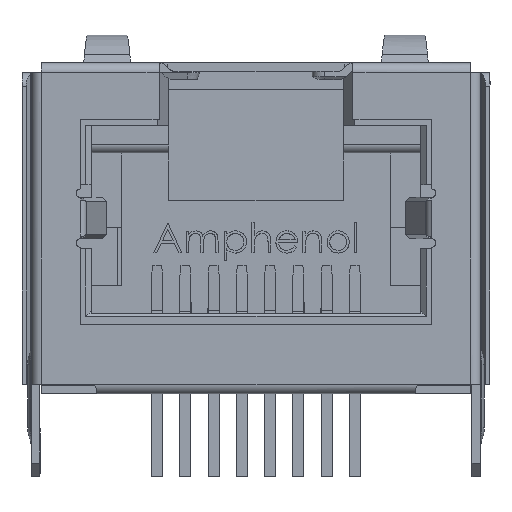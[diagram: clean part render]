
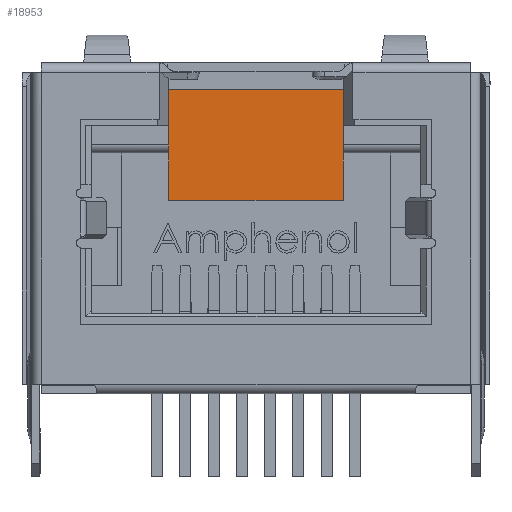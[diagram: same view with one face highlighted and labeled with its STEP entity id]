
A CAD part, front view. The second image highlights one B-rep face of the part: STEP entity #18953.
In plain terms, the highlighted planar face has unit normal (0, -1, 0).
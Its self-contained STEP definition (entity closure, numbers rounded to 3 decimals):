
#13 = CARTESIAN_POINT ( 'NONE',  ( -42.9, 10.95, -0.95 ) ) ;
#952 = VERTEX_POINT ( 'NONE', #2287 ) ;
#1621 = CARTESIAN_POINT ( 'NONE',  ( -46.05, 10.95, -2.625 ) ) ;
#2287 = CARTESIAN_POINT ( 'NONE',  ( -39.75, 10.95, -0.95 ) ) ;
#2913 = LINE ( 'NONE', #13, #9494 ) ;
#3736 = ORIENTED_EDGE ( 'NONE', *, *, #13217, .T. ) ;
#4443 = DIRECTION ( 'NONE',  ( 0., 0., -1. ) ) ;
#4723 = VERTEX_POINT ( 'NONE', #17481 ) ;
#6449 = CARTESIAN_POINT ( 'NONE',  ( -46.05, 10.95, -0.95 ) ) ;
#6626 = EDGE_CURVE ( 'NONE', #4723, #14521, #27445, .T. ) ;
#7079 = AXIS2_PLACEMENT_3D ( 'NONE', #25073, #13835, #33531 ) ;
#8491 = DIRECTION ( 'NONE',  ( -1., 0., 0. ) ) ;
#8744 = FACE_OUTER_BOUND ( 'NONE', #26515, .T. ) ;
#9494 = VECTOR ( 'NONE', #8491, 1000. ) ;
#9843 = VECTOR ( 'NONE', #4443, 1000. ) ;
#11823 = VECTOR ( 'NONE', #22944, 1000. ) ;
#13217 = EDGE_CURVE ( 'NONE', #952, #28577, #2913, .T. ) ;
#13835 = DIRECTION ( 'NONE',  ( 0., -1., 0. ) ) ;
#13949 = ORIENTED_EDGE ( 'NONE', *, *, #34837, .T. ) ;
#14521 = VERTEX_POINT ( 'NONE', #23583 ) ;
#17481 = CARTESIAN_POINT ( 'NONE',  ( -46.05, 10.95, -4.95 ) ) ;
#18219 = ORIENTED_EDGE ( 'NONE', *, *, #19114, .T. ) ;
#18953 = ADVANCED_FACE ( 'NONE', ( #8744 ), #30729, .T. ) ;
#19114 = EDGE_CURVE ( 'NONE', #14521, #952, #27701, .T. ) ;
#19940 = VECTOR ( 'NONE', #32054, 1000. ) ;
#21885 = ORIENTED_EDGE ( 'NONE', *, *, #6626, .T. ) ;
#22944 = DIRECTION ( 'NONE',  ( 0., 0., 1. ) ) ;
#23583 = CARTESIAN_POINT ( 'NONE',  ( -39.75, 10.95, -4.95 ) ) ;
#25073 = CARTESIAN_POINT ( 'NONE',  ( -46.05, 10.95, -0.95 ) ) ;
#26515 = EDGE_LOOP ( 'NONE', ( #21885, #18219, #3736, #13949 ) ) ;
#27445 = LINE ( 'NONE', #32185, #19940 ) ;
#27701 = LINE ( 'NONE', #31335, #11823 ) ;
#28577 = VERTEX_POINT ( 'NONE', #6449 ) ;
#30729 = PLANE ( 'NONE',  #7079 ) ;
#31335 = CARTESIAN_POINT ( 'NONE',  ( -39.75, 10.95, -2.625 ) ) ;
#32054 = DIRECTION ( 'NONE',  ( 1., 0., 0. ) ) ;
#32185 = CARTESIAN_POINT ( 'NONE',  ( -42.9, 10.95, -4.95 ) ) ;
#32330 = LINE ( 'NONE', #1621, #9843 ) ;
#33531 = DIRECTION ( 'NONE',  ( 0., 0., -1. ) ) ;
#34837 = EDGE_CURVE ( 'NONE', #28577, #4723, #32330, .T. ) ;
